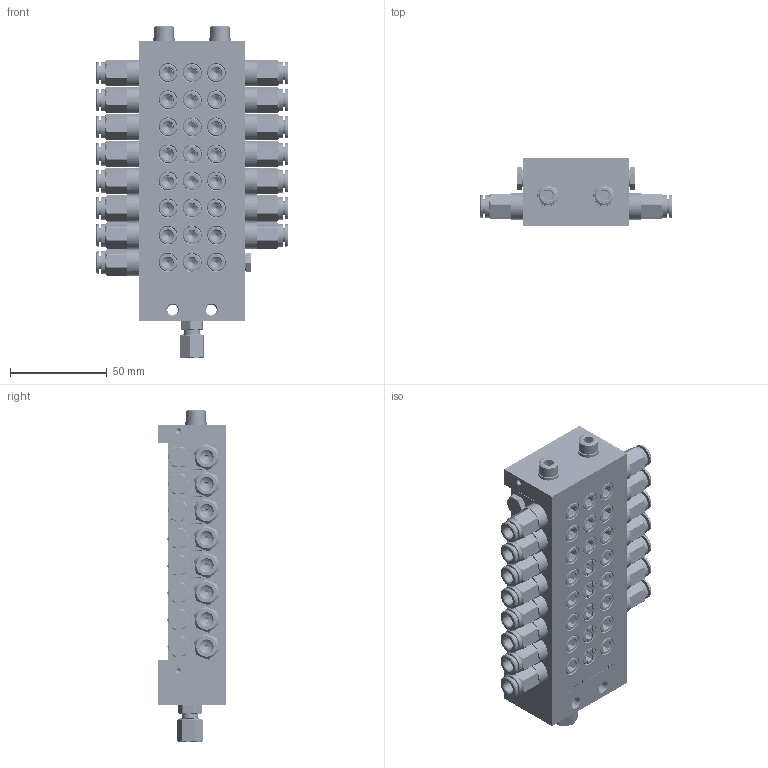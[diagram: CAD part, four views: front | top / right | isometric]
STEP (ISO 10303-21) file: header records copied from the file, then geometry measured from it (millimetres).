
FILE_DESCRIPTION (( 'STEP AP214' ), '1' );
FILE_NAME ('STW_XV_0143_15_0502_15_Auslässe.STEP', '2026-02-04T10:32:01', ( '' ), ( '' ), 'SwSTEP 2.0', 'SolidWorks 2022', '' );
FILE_SCHEMA (( 'AUTOMOTIVE_DESIGN' ));
Length unit declared in the file: millimetre
Products named in the file (19): H200139_HDS01_6_M10X1_08.05.17; 991214010601_Koerper; OR 7.66X1.78_1; Verschlussstopfen_1_8; M6X65_DIN_912; STW_XV_Verbindungsstopen; STW_XV_MITTEL_1; STW_XV_Kolbenanschlag; Verschlussstopfen_1_8_2; STW_XV_END; STW_XV_ENGANG; 991214010601_Mutter; DR6-C_HDX_25.07.16_1; XV_Mittelelement; RIVOLUZIONE_0_2; U_Scheibe_6; 991214010601_Schneidring; STW_XV_0143_15_0502_15_Auslässe; 991214010601
Assembly tree (58 placements, depth 3):
  STW_XV_0143_15_0502_15_Auslässe
    STW_XV_ENGANG
    STW_XV_MITTEL_1  x3
    STW_XV_END
    Verschlussstopfen_1_8_2  x6
    STW_XV_Kolbenanschlag  x6
    STW_XV_Verbindungsstopen  x3
    M6X65_DIN_912  x2
    U_Scheibe_6  x2
    991214010601
      991214010601_Koerper
      991214010601_Schneidring
      991214010601_Mutter
    XV_Mittelelement  x5
      STW_XV_MITTEL_1
      STW_XV_Kolbenanschlag
      Verschlussstopfen_1_8_2
      STW_XV_Verbindungsstopen
    H200139_HDS01_6_M10X1_08.05.17  x15
      OR 7.66X1.78_1
      DR6-C_HDX_25.07.16_1
      RIVOLUZIONE_0_2
    Verschlussstopfen_1_8
Bounding box: 99.6 x 35 x 171.68 mm (x, y, z)
Volume: 261375.8 mm3; surface area: 158038.4 mm2
Topology: 103 solids, 103 shells, 3410 faces, 8832 edges, 5682 vertices
Faces by surface type: plane 1676, cylinder 838, cone 673, bspline 207, torus 16
Full cylindrical faces by diameter (mm): 2 x209, 3 x15, 4.2 x15, 4.5 x1, 5 x83, 5.5 x2, 5.9 x2, 6 x3, 6.2 x34, 6.3 x15, 6.4 x2, 6.5 x16, 7 x16, 7.2 x15, 7.4 x1, 7.67 x1, 8 x17, 8.3 x1, 8.4 x8, 8.5 x15, 8.6 x40, 9 x18, 9.7 x17, 9.73 x8, 9.8 x7, 9.9 x15, 10 x48, 10.3 x15, 11 x2, 11.5 x15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
Entity records: 45664 total; most frequent: CARTESIAN_POINT 22450, ORIENTED_EDGE 3064, DIRECTION 2719, EDGE_CURVE 1532, VERTEX_POINT 1095, EDGE_LOOP 1035, AXIS2_PLACEMENT_3D 977, FACE_OUTER_BOUND 832
